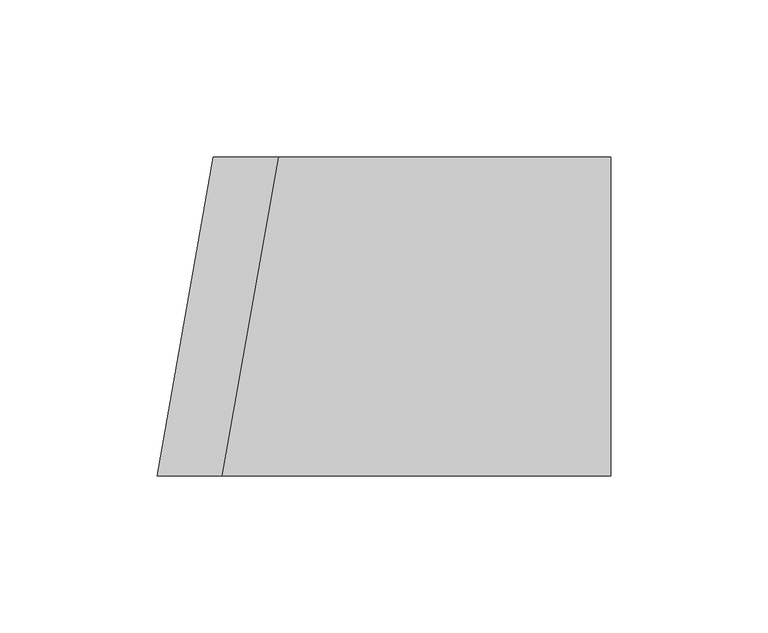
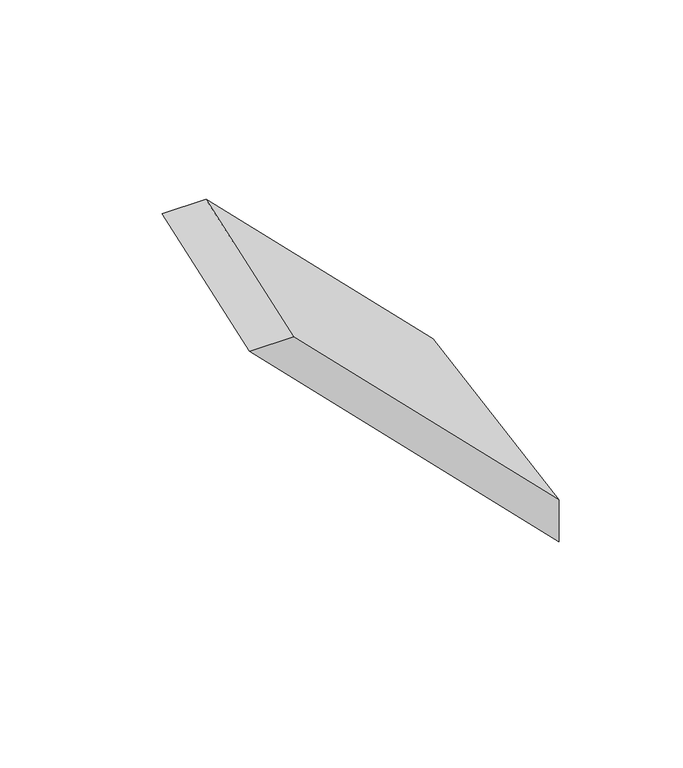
"""IFC4 building model written with IfcOpenShell, lengths in millimetres: proxy geometry, GRADIENT^TABLE 1_OCTAGON LEGS-APRON 4."""

from ifc_helpers import new_model, si_unit, origin, place, context, project, spatial, faceted_brep, source, transform, mapped, element, save


def generic_models_183aa09b(model_context):
    return source(origin(), model_context, "Body", "Brep", [
        faceted_brep([(0.0, 692.15, -164.655703), (0.0, 590.55, -182.5705242), (-144.4705242, 590.55, -38.1), (-126.555703, 692.15, -38.1), (-123.8823476, 590.55, -38.1), (-105.9675264, 692.15, -38.1), (0.0, 590.55, -161.9823476), (0.0, 692.15, -144.0675264)], [[[0, 1, 2, 3]], [[3, 2, 4, 5]], [[2, 1, 6, 4]], [[5, 4, 6, 7]], [[1, 0, 7, 6]], [[0, 3, 5, 7]]]),
    ])


if __name__ == "__main__":
    model = new_model("IFC4")
    model_context = context("Model", 3, world=origin())
    ifc_project = project(units=[si_unit("LENGTHUNIT", "METRE", prefix="MILLI")], contexts=[model_context])
    site = spatial("IfcSite", under=ifc_project)
    building = spatial("IfcBuilding", under=site)
    placement = place(None, origin())
    generic_models_shape = generic_models_183aa09b(model_context)
    element("IfcBuildingElementProxy", 1, Name="GRADIENT^TABLE 1_OCTAGON LEGS-APRON 4", ObjectType="GRADIENT^TABLE 1_OCTAGON LEGS-APRON 4", at=placement, inside=building, context=model_context, shape_type="MappedRepresentation", body=[
        mapped(generic_models_shape, transform((0.0, 0.0, 0.0), x_axis=(1.0, 0.0, 0.0), y_axis=(0.0, 1.0, 0.0), z_axis=(0.0, 0.0, 1.0))),
    ])
    save(model, "model.ifc")
